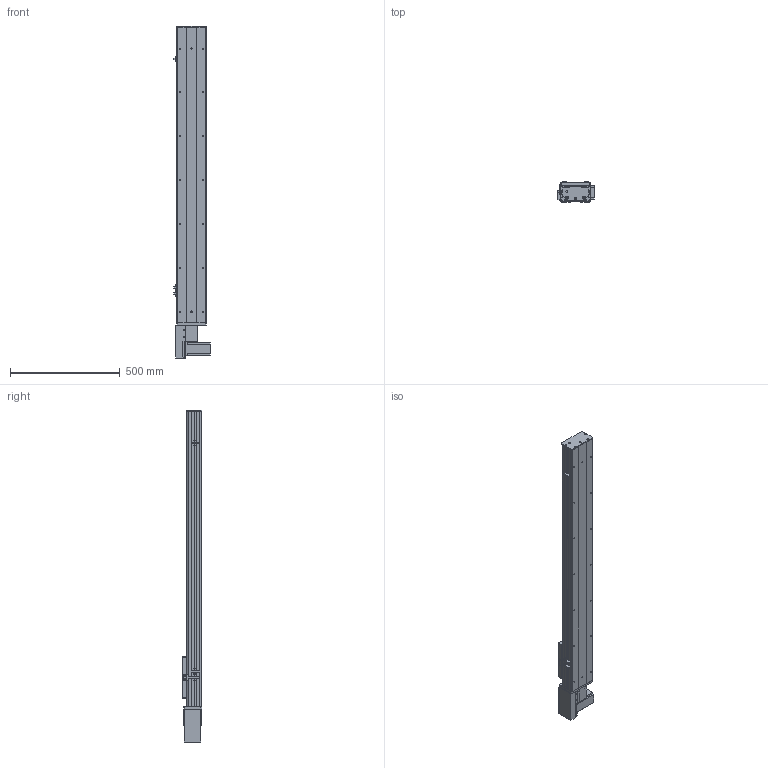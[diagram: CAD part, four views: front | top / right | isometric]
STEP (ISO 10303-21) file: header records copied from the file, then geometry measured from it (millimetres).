
FILE_DESCRIPTION (( 'STEP AP203' ), '1' );
FILE_NAME ('Y135CB-D90-S1050-BR-P400W.STEP', '2020-02-18T02:30:16', ( '微软用户' ), ( '微软中国' ), 'SwSTEP 2.0', 'SolidWorks 2017', '' );
FILE_SCHEMA (( 'CONFIG_CONTROL_DESIGN' ));
Length unit declared in the file: millimetre
Products named in the file (18): Y135C-陔俋离換覜結え-; Y135CB-耜裔; 5C--俋欶; 135CB---遴掛极.-; C-雄赽釱--; 35CB---喘謫眊楊擘啣; 0B-萇儂楊擘啣; Y10B--々湍喘謫眊--666; Y10B-耜蚾蟀諉啣----; san松下电机400不带刹车----; Y135CB-D90-S1050-BR-P400W; Y俋欶BR----; 5CB --掛极耜裔啣-; 0B-埴倛裔啣; C-詩湍揤踡え-陔; 0B-源倛裔啣; 135CB--詩湍-CE; Y100-135俋离換覜ん--
Assembly tree (21 placements, depth 2):
  Y135CB-D90-S1050-BR-P400W
    Y135CB-耜裔
    135CB---遴掛极.-
    35CB---喘謫眊楊擘啣
    Y10B-耜蚾蟀諉啣----
    Y俋欶BR----
    0B-埴倛裔啣
    0B-源倛裔啣
    0B-萇儂楊擘啣
    san松下电机400不带刹车----
    5CB --掛极耜裔啣-  x2
    C-詩湍揤踡え-陔  x2
    135CB--詩湍-CE
    Y100-135俋离換覜ん--  x3
    Y135C-陔俋离換覜結え-
    5C--俋欶
    C-雄赽釱--
    Y10B--々湍喘謫眊--666
Bounding box: 167.5 x 91 x 1514.5 mm (x, y, z)
Volume: 4517204.8 mm3; surface area: 1769425.7 mm2
Topology: 21 solids, 21 shells, 945 faces, 2527 edges, 1674 vertices
Faces by surface type: cylinder 471, plane 458, cone 16
Entity records: 29341 total; most frequent: DIRECTION 4871, CARTESIAN_POINT 4812, ORIENTED_EDGE 4530, EDGE_CURVE 2265, AXIS2_PLACEMENT_3D 1773, VERTEX_POINT 1502, VECTOR 1325, LINE 1325
